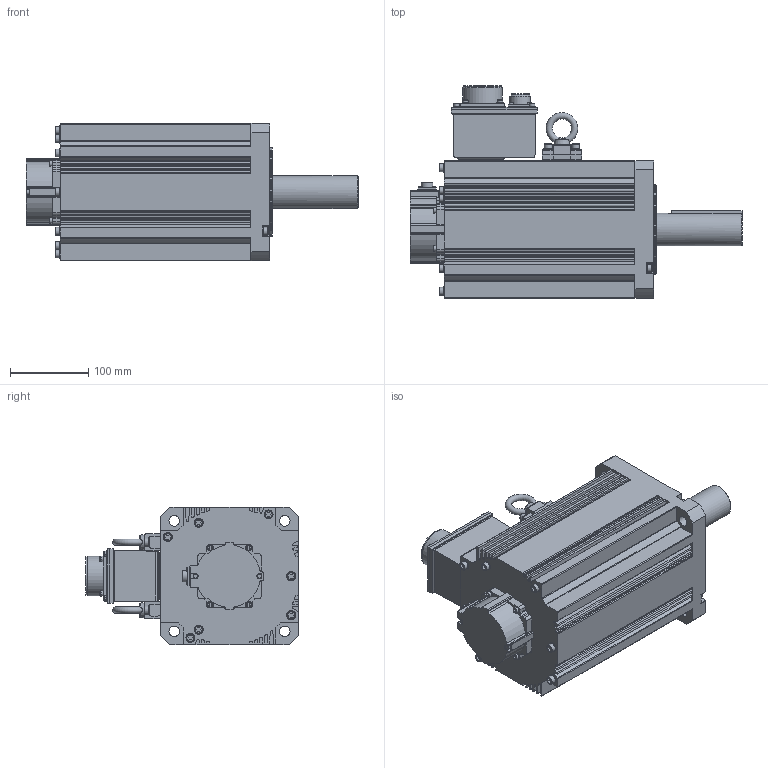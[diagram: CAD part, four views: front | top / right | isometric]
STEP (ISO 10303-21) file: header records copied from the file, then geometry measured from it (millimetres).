
FILE_DESCRIPTION( ( 'STEP AP0' ), '1' );
FILE_NAME( '//expscmdclustefs.cadenas.external/client_exchange/iodir/jobs/output/wkb64907550_no0/STEP/MDME754G1G_2_03.stp', ' ', ( ' ' ), ( ' ' ), 'PSStep 15.0.47', 'PARTsolutions', ' ' );
FILE_SCHEMA( ( 'CONFIG_CONTROL_DESIGN' ) );
Length unit declared in the file: millimetre
Products named in the file (1): HI_MDME754G1G
Bounding box: 425 x 272 x 176.36 mm (x, y, z)
Volume: 8312988.8 mm3; surface area: 407693.8 mm2
Topology: 1 solids, 1 shells, 922 faces, 2351 edges, 1541 vertices
Faces by surface type: plane 545, cylinder 315, cone 47, torus 11, sphere 4
Full cylindrical faces by diameter (mm): 3.242 x1, 5 x4, 5.5 x6, 7 x12, 8 x12, 10 x15, 11 x4, 11.5 x11, 13.5 x4, 14.8 x1, 22.8 x1, 26.38 x1, 42 x1, 49.272 x1, 50.8 x1, 52 x1, 58 x1, 67 x1, 105 x1, 114.3 x1
Entity records: 27615 total; most frequent: CARTESIAN_POINT 5324, DIRECTION 4647, ORIENTED_EDGE 4402, EDGE_CURVE 2201, AXIS2_PLACEMENT_3D 1587, VERTEX_POINT 1530, LINE 1473, VECTOR 1473
